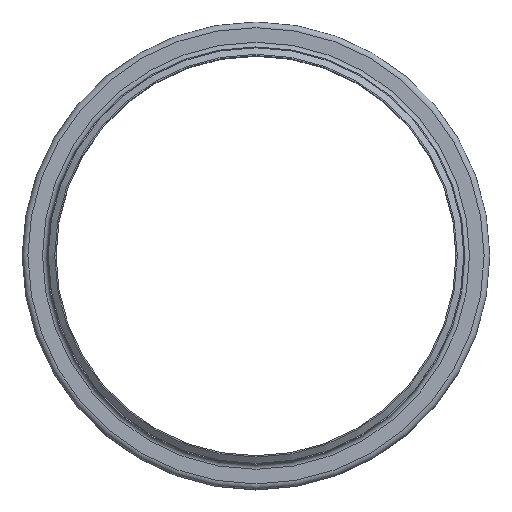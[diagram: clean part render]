
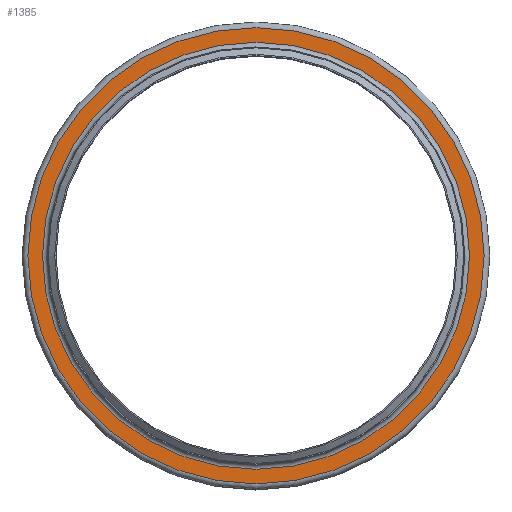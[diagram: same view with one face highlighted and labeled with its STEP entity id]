
A CAD part, top view. The second image highlights one B-rep face of the part: STEP entity #1385.
In plain terms, the highlighted planar face has unit normal (0, 0, 1).
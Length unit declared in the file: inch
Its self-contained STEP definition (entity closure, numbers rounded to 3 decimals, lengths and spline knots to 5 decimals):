
#155=FACE_BOUND('',#416,.T.);
#256=FACE_OUTER_BOUND('',#415,.T.);
#415=EDGE_LOOP('',(#1168));
#416=EDGE_LOOP('',(#1169));
#584=CIRCLE('',#1684,10.274);
#585=CIRCLE('',#1686,10.976);
#703=VERTEX_POINT('',#2631);
#704=VERTEX_POINT('',#2635);
#862=EDGE_CURVE('',#703,#703,#584,.T.);
#863=EDGE_CURVE('',#704,#704,#585,.T.);
#1168=ORIENTED_EDGE('',*,*,#863,.F.);
#1169=ORIENTED_EDGE('',*,*,#862,.T.);
#1284=PLANE('',#1685);
#1385=ADVANCED_FACE('',(#256,#155),#1284,.T.);
#1684=AXIS2_PLACEMENT_3D('',#2633,#2197,#2198);
#1685=AXIS2_PLACEMENT_3D('',#2634,#2199,#2200);
#1686=AXIS2_PLACEMENT_3D('',#2636,#2201,#2202);
#2197=DIRECTION('center_axis',(0.,0.,-1.));
#2198=DIRECTION('ref_axis',(1.,0.,0.));
#2199=DIRECTION('center_axis',(0.,0.,1.));
#2200=DIRECTION('ref_axis',(1.,0.,0.));
#2201=DIRECTION('center_axis',(0.,0.,-1.));
#2202=DIRECTION('ref_axis',(1.,0.,0.));
#2631=CARTESIAN_POINT('',(10.274,0.,-0.226));
#2633=CARTESIAN_POINT('Origin',(0.,0.,-0.226));
#2634=CARTESIAN_POINT('Origin',(0.,10.976,-0.226));
#2635=CARTESIAN_POINT('',(10.976,0.,-0.226));
#2636=CARTESIAN_POINT('Origin',(0.,0.,-0.226));
